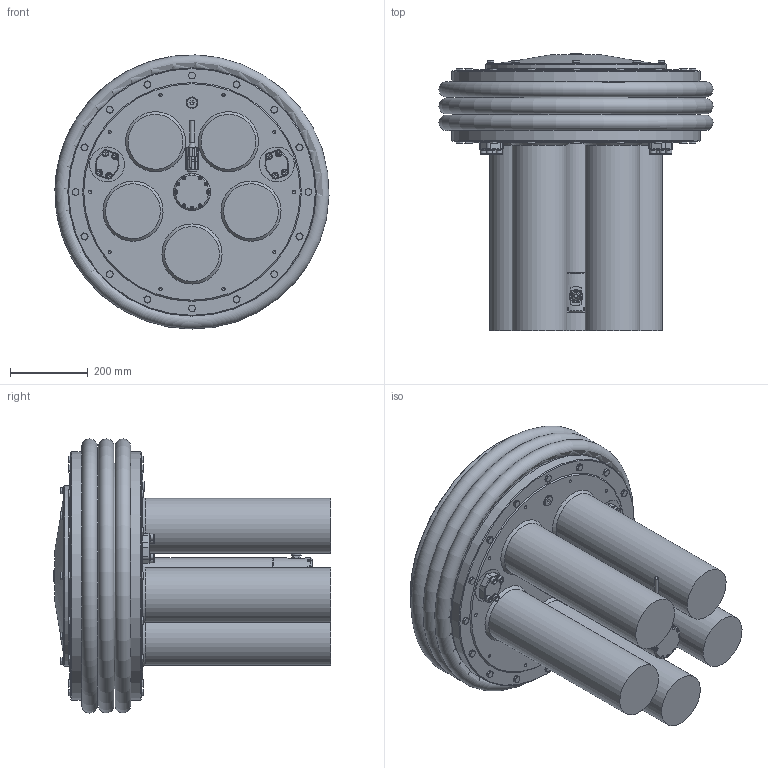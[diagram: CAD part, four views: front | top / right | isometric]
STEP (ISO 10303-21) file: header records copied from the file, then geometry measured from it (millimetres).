
FILE_DESCRIPTION(/* description */ ('Main Assembly'),/* implementation_level */ '2;1');
FILE_NAME(/* name */ 'C:\Users\Mathijs\Desktop\Steps\ME-0271-1102-Empty.stp',/* time_stamp */ '2018-02-15T14:08:31+01:00',/* author */ ('Mathijs'),/* organization */ ('Seatools'),/* preprocessor_version */ 'ST-DEVELOPER v16.1',/* originating_system */ 'Autodesk Inventor 2016',/* authorisation */ '');
FILE_SCHEMA (('AUTOMOTIVE_DESIGN { 1 0 10303 214 3 1 1 }'));
Length unit declared in the file: millimetre
Products named in the file (1): ME-0271-1102-Empty
Bounding box: 706.69 x 715.5 x 706.84 mm (x, y, z)
Volume: 109815700.8 mm3; surface area: 3036395.9 mm2
Topology: 2 solids, 2 shells, 1344 faces, 3218 edges, 2022 vertices
Faces by surface type: plane 683, cone 305, cylinder 279, torus 51, bspline 18, sphere 8
Full cylindrical faces by diameter (mm): 5 x3, 5.3 x3, 6 x6, 6.4 x6, 6.647 x3, 8.376 x10, 8.5 x3, 9.188 x8, 10 x22, 10.5 x9, 11 x8, 11.113 x1, 15.4 x40, 16 x8, 17 x8, 20 x1, 25 x1, 25.5 x2, 26 x2, 28.575 x1, 30 x2, 33 x1, 90 x2, 94 x2, 141.3 x5, 465 x1, 640 x2
Entity records: 39864 total; most frequent: CARTESIAN_POINT 10251, DIRECTION 5838, ORIENTED_EDGE 5644, EDGE_CURVE 2822, AXIS2_PLACEMENT_3D 2375, VERTEX_POINT 1894, EDGE_LOOP 1808, STYLED_ITEM 1346
